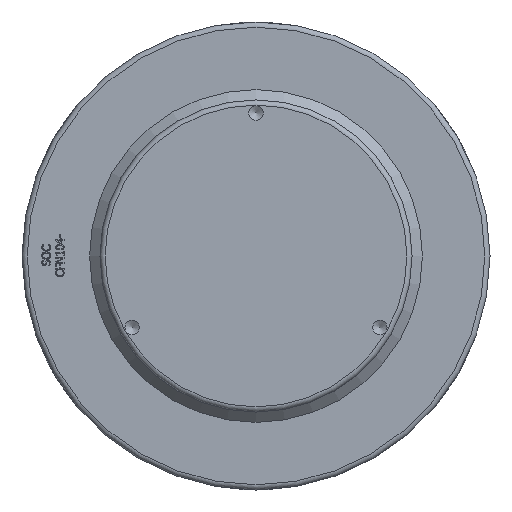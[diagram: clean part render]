
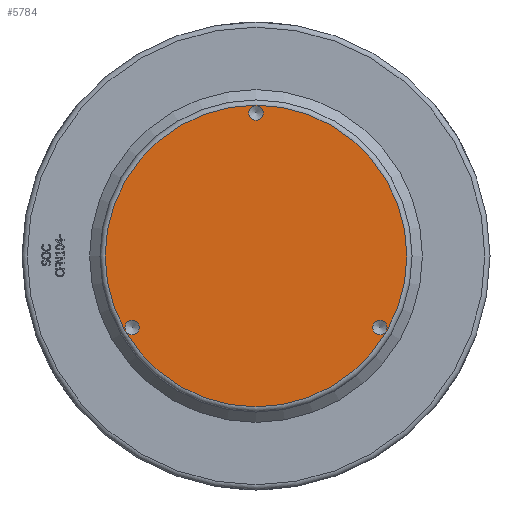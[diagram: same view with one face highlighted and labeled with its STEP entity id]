
A CAD part, front view. The second image highlights one B-rep face of the part: STEP entity #5784.
In plain terms, the highlighted planar face has unit normal (0, -1, 0) as drawn and (0, 1, 0) by its records, which use the part's own axes.
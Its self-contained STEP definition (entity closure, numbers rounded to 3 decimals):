
#1593=PLANE('',#6100);
#1687=FACE_BOUND('',#2245,.T.);
#1688=FACE_BOUND('',#2246,.T.);
#1689=FACE_BOUND('',#2247,.T.);
#1897=FACE_OUTER_BOUND('',#2244,.T.);
#2244=EDGE_LOOP('',(#4737));
#2245=EDGE_LOOP('',(#4738));
#2246=EDGE_LOOP('',(#4739));
#2247=EDGE_LOOP('',(#4740));
#2459=CIRCLE('',#6013,6.918);
#2461=CIRCLE('',#6017,6.918);
#2463=CIRCLE('',#6021,6.918);
#2465=CIRCLE('',#6098,145.);
#2485=VERTEX_POINT('',#7160);
#2487=VERTEX_POINT('',#7166);
#2489=VERTEX_POINT('',#7172);
#2763=VERTEX_POINT('',#8981);
#3065=EDGE_CURVE('',#2485,#2485,#2459,.T.);
#3067=EDGE_CURVE('',#2487,#2487,#2461,.T.);
#3069=EDGE_CURVE('',#2489,#2489,#2463,.T.);
#3479=EDGE_CURVE('',#2763,#2763,#2465,.T.);
#4737=ORIENTED_EDGE('',*,*,#3479,.F.);
#4738=ORIENTED_EDGE('',*,*,#3065,.T.);
#4739=ORIENTED_EDGE('',*,*,#3067,.T.);
#4740=ORIENTED_EDGE('',*,*,#3069,.T.);
#5784=ADVANCED_FACE('',(#1897,#1687,#1688,#1689),#1593,.T.);
#6013=AXIS2_PLACEMENT_3D('',#7161,#6229,#6230);
#6017=AXIS2_PLACEMENT_3D('',#7167,#6237,#6238);
#6021=AXIS2_PLACEMENT_3D('',#7173,#6245,#6246);
#6098=AXIS2_PLACEMENT_3D('',#8982,#6657,#6658);
#6100=AXIS2_PLACEMENT_3D('',#8985,#6661,#6662);
#6229=DIRECTION('center_axis',(0.,-1.,0.));
#6230=DIRECTION('ref_axis',(-0.5,0.,-0.866));
#6237=DIRECTION('center_axis',(0.,-1.,0.));
#6238=DIRECTION('ref_axis',(-0.5,0.,0.866));
#6245=DIRECTION('center_axis',(0.,-1.,0.));
#6246=DIRECTION('ref_axis',(1.,0.,0.));
#6657=DIRECTION('center_axis',(0.,-1.,0.));
#6658=DIRECTION('ref_axis',(-1.,0.,0.));
#6661=DIRECTION('center_axis',(0.,1.,0.));
#6662=DIRECTION('ref_axis',(0.,0.,1.));
#7160=CARTESIAN_POINT('',(115.62,273.,-74.741));
#7161=CARTESIAN_POINT('Origin',(119.078,273.,-68.75));
#7166=CARTESIAN_POINT('',(-122.537,273.,-62.759));
#7167=CARTESIAN_POINT('Origin',(-119.078,273.,-68.75));
#7172=CARTESIAN_POINT('',(6.918,273.,137.5));
#7173=CARTESIAN_POINT('Origin',(0.,273.,137.5));
#8981=CARTESIAN_POINT('',(145.,273.,0.));
#8982=CARTESIAN_POINT('Origin',(0.,273.,0.));
#8985=CARTESIAN_POINT('Origin',(150.,273.,0.));
